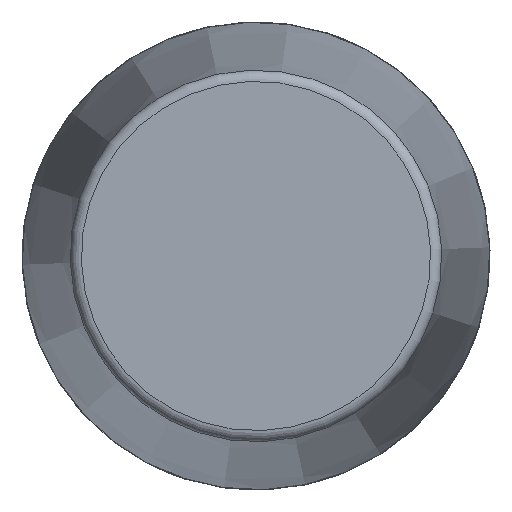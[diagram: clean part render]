
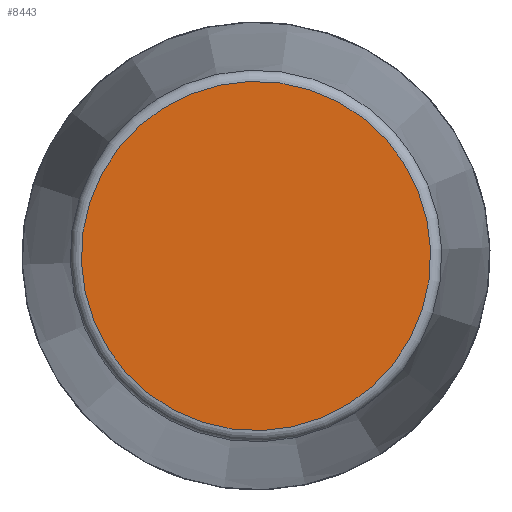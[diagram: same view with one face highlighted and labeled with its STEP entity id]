
A CAD part, front view. The second image highlights one B-rep face of the part: STEP entity #8443.
In plain terms, the highlighted planar face has unit normal (0, -1, 0) as drawn and (1, 0, 0) by its records, which use the part's own axes.
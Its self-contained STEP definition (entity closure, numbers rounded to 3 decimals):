
#2341=PLANE('',#8797);
#2906=FACE_OUTER_BOUND('',#3447,.T.);
#3447=EDGE_LOOP('',(#7947));
#3488=CIRCLE('',#8793,78.328);
#4314=VERTEX_POINT('',#15970);
#5528=EDGE_CURVE('',#4314,#4314,#3488,.T.);
#7947=ORIENTED_EDGE('',*,*,#5528,.F.);
#8443=ADVANCED_FACE('',(#2906),#2341,.T.);
#8793=AXIS2_PLACEMENT_3D('',#15971,#10064,#10065);
#8797=AXIS2_PLACEMENT_3D('',#15977,#10072,#10073);
#10064=DIRECTION('center_axis',(-1.,0.,0.));
#10065=DIRECTION('ref_axis',(0.,0.,
1.));
#10072=DIRECTION('center_axis',(1.,0.,0.));
#10073=DIRECTION('ref_axis',(0.,0.,-1.));
#15970=CARTESIAN_POINT('',(403.5,0.,-78.328));
#15971=CARTESIAN_POINT('Origin',(403.5,0.,0.));
#15977=CARTESIAN_POINT('Origin',(403.5,0.,0.));
